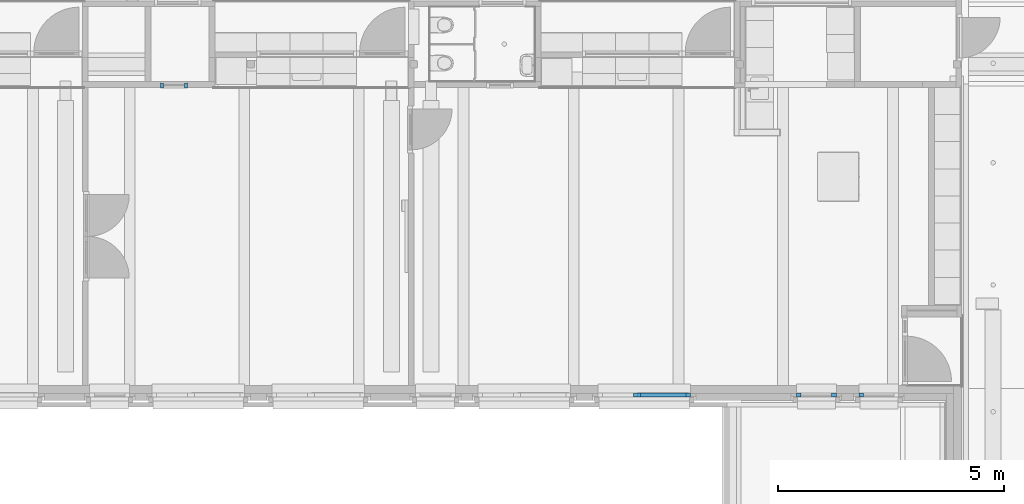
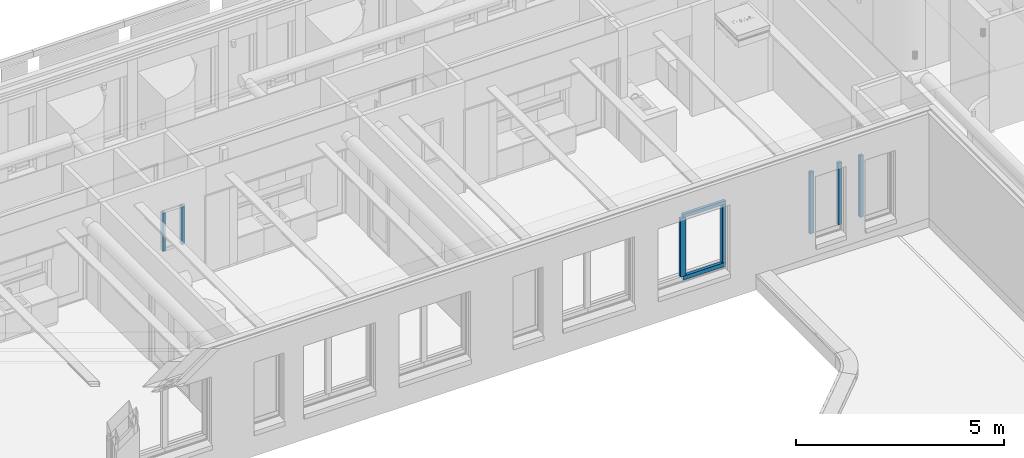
# One storey, part 16 of 128: 9 members, 4 elements without a shape of their own.
"""IFC2X3 building model written with IfcOpenShell, lengths in millimetres."""

from ifc_helpers import new_model, entity, si_unit, converted_unit, derived_unit, direction, frame, frame_2d, origin, origin_2d_with_axis, place, context, subcontext, project, spatial, rectangle, extrude, source, transform, mapped, material, type_object, type_shapes, element, aggregate, save


model = new_model("IFC2X3")

# Units and contexts
model_context = context("Model", 3, precision=0.01, world=origin(), true_north=direction((6.123031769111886e-17, 1.0)))
body_context = subcontext(model_context, "Body", "Model", "MODEL_VIEW")
ifc_project = project(units=[si_unit("LENGTHUNIT", "METRE", prefix="MILLI"), si_unit("AREAUNIT", "SQUARE_METRE"), si_unit("VOLUMEUNIT", "CUBIC_METRE"), converted_unit("PLANEANGLEUNIT", "DEGREE", entity("IfcRatioMeasure", 0.017453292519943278), si_unit("PLANEANGLEUNIT", "RADIAN"), dimensions=[0, 0, 0, 0, 0, 0, 0]), si_unit("MASSUNIT", "GRAM", prefix="KILO"), derived_unit("MASSDENSITYUNIT", [(si_unit("MASSUNIT", "GRAM", prefix="KILO"), 1), (si_unit("LENGTHUNIT", "METRE"), -3)]), derived_unit("IONCONCENTRATIONUNIT", [(si_unit("MASSUNIT", "GRAM", prefix="KILO"), 1), (si_unit("LENGTHUNIT", "METRE"), -3)]), derived_unit("MOMENTOFINERTIAUNIT", [(si_unit("LENGTHUNIT", "METRE"), 4)]), si_unit("TIMEUNIT", "SECOND"), si_unit("FREQUENCYUNIT", "HERTZ"), si_unit("THERMODYNAMICTEMPERATUREUNIT", "DEGREE_CELSIUS"), derived_unit("THERMALTRANSMITTANCEUNIT", [(si_unit("MASSUNIT", "GRAM", prefix="KILO"), 1), (si_unit("THERMODYNAMICTEMPERATUREUNIT", "KELVIN"), -1), (si_unit("TIMEUNIT", "SECOND"), -3)]), derived_unit("THERMALCONDUCTANCEUNIT", [(si_unit("MASSUNIT", "GRAM", prefix="KILO"), 1), (si_unit("THERMODYNAMICTEMPERATUREUNIT", "KELVIN"), -1), (si_unit("TIMEUNIT", "SECOND"), -3), (si_unit("LENGTHUNIT", "METRE"), 1)]), derived_unit("VOLUMETRICFLOWRATEUNIT", [(si_unit("LENGTHUNIT", "METRE"), 3), (si_unit("TIMEUNIT", "SECOND"), -1)]), derived_unit("MASSFLOWRATEUNIT", [(si_unit("MASSUNIT", "GRAM", prefix="KILO"), 1), (si_unit("TIMEUNIT", "SECOND"), -1)]), derived_unit("ROTATIONALFREQUENCYUNIT", [(si_unit("TIMEUNIT", "SECOND"), -1)]), si_unit("ELECTRICCURRENTUNIT", "AMPERE"), si_unit("ELECTRICVOLTAGEUNIT", "VOLT"), si_unit("POWERUNIT", "WATT"), si_unit("FORCEUNIT", "NEWTON", prefix="KILO"), si_unit("ILLUMINANCEUNIT", "LUX"), si_unit("LUMINOUSFLUXUNIT", "LUMEN"), si_unit("LUMINOUSINTENSITYUNIT", "CANDELA"), derived_unit("USERDEFINED", [(si_unit("MASSUNIT", "GRAM", prefix="KILO"), -1), (si_unit("LENGTHUNIT", "METRE"), -2), (si_unit("TIMEUNIT", "SECOND"), 3), (si_unit("LUMINOUSFLUXUNIT", "LUMEN"), 1)]), derived_unit("USERDEFINED", [(si_unit("MASSUNIT", "GRAM", prefix="KILO"), 1), (si_unit("TIMEUNIT", "SECOND"), -3), (si_unit("LENGTHUNIT", "METRE"), 3), (si_unit("ELECTRICCURRENTUNIT", "AMPERE"), -2)]), derived_unit("SOUNDPOWERUNIT", [(si_unit("MASSUNIT", "GRAM", prefix="KILO"), 1), (si_unit("TIMEUNIT", "SECOND"), -3), (si_unit("LENGTHUNIT", "METRE"), 2)]), derived_unit("SOUNDPRESSUREUNIT", [(si_unit("MASSUNIT", "GRAM", prefix="KILO"), 1), (si_unit("LENGTHUNIT", "METRE"), -1), (si_unit("TIMEUNIT", "SECOND"), -2)]), derived_unit("LINEARVELOCITYUNIT", [(si_unit("LENGTHUNIT", "METRE"), 1), (si_unit("TIMEUNIT", "SECOND"), -1)]), si_unit("PRESSUREUNIT", "PASCAL"), derived_unit("USERDEFINED", [(si_unit("MASSUNIT", "GRAM", prefix="KILO"), 1), (si_unit("LENGTHUNIT", "METRE"), -2), (si_unit("TIMEUNIT", "SECOND"), -2)]), derived_unit("LINEARFORCEUNIT", [(si_unit("MASSUNIT", "GRAM", prefix="KILO"), 1), (si_unit("TIMEUNIT", "SECOND"), -2)]), derived_unit("PLANARFORCEUNIT", [(si_unit("MASSUNIT", "GRAM", prefix="KILO"), 1), (si_unit("LENGTHUNIT", "METRE"), -1), (si_unit("TIMEUNIT", "SECOND"), -2)]), derived_unit("SPECIFICHEATCAPACITYUNIT", [(si_unit("THERMODYNAMICTEMPERATUREUNIT", "KELVIN"), -1), (si_unit("LENGTHUNIT", "METRE"), 2), (si_unit("TIMEUNIT", "SECOND"), -2)]), derived_unit("HEATINGVALUEUNIT", [(si_unit("LENGTHUNIT", "METRE"), 2), (si_unit("TIMEUNIT", "SECOND"), -2)]), derived_unit("VAPORPERMEABILITYUNIT", [(si_unit("LENGTHUNIT", "METRE"), -1), (si_unit("TIMEUNIT", "SECOND"), 1)]), derived_unit("DYNAMICVISCOSITYUNIT", [(si_unit("MASSUNIT", "GRAM", prefix="KILO"), 1), (si_unit("TIMEUNIT", "SECOND"), -1), (si_unit("LENGTHUNIT", "METRE"), -1)]), derived_unit("THERMALEXPANSIONCOEFFICIENTUNIT", [(si_unit("THERMODYNAMICTEMPERATUREUNIT", "KELVIN"), -1)]), derived_unit("MODULUSOFELASTICITYUNIT", [(si_unit("MASSUNIT", "GRAM", prefix="KILO"), 1), (si_unit("LENGTHUNIT", "METRE"), -1), (si_unit("TIMEUNIT", "SECOND"), -2)]), derived_unit("ISOTHERMALMOISTURECAPACITYUNIT", [(si_unit("LENGTHUNIT", "METRE"), 3), (si_unit("MASSUNIT", "GRAM", prefix="KILO"), -1)]), derived_unit("MOISTUREDIFFUSIVITYUNIT", [(si_unit("TIMEUNIT", "SECOND"), -1), (si_unit("LENGTHUNIT", "METRE"), 2)])], contexts=[model_context])

# Site, building, storey
site_placement = place(None, frame((0.0, 300.0, 0.0)))
site = spatial("IfcSite", under=ifc_project, at=site_placement, Name="<Kadastrale nummers>", CompositionType="ELEMENT")
building_placement = place(site_placement, origin())
building = spatial("IfcBuilding", under=site, at=building_placement, CompositionType="ELEMENT")
storey_placement = place(building_placement, frame((0.0, 0.0, 3560.0000331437)))
storey = spatial("IfcBuildingStorey", under=building, at=storey_placement, Name="01 eerste verdieping", CompositionType="ELEMENT", Elevation=3560.0000331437)

# Curtain wall, members
curtain_wall_type_1 = type_object("IfcCurtainWallType", Name="Curtain Wall:Merk H05", PredefinedType="NOTDEFINED")
curtain_wall_1_placement = place(storey_placement, frame((0.0, 0.0, -3560.0000331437)))
curtain_wall_1 = element("IfcCurtainWall", 1, at=curtain_wall_1_placement, inside=storey, type_object=curtain_wall_type_1, Name="Curtain Wall:Merk H05", ObjectType="Curtain Wall:Merk H05")
ifc_material_1 = material(Name="ISR_HPL")
member_type_1 = type_object("IfcMemberType", Name="Rectangular Mullion:31_CWM_067x114", PredefinedType="MULLION", material=ifc_material_1)
shared_shape_1 = source(origin(), body_context, "Body", "SweptSolid", [
    extrude(rectangle(XDim=113.9999999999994, YDim=67.0, at=frame_2d((1.0658141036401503e-14, 0.0), x_axis=(1.0, 0.0))), frame((-33.5, -57.0, -1123.0), z_axis=(0.0, 0.0, 1.0), x_axis=(0.0, -1.0, 0.0)), (0.0, 0.0, 1.0), 1123.0000000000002),
])
type_shapes(member_type_1, [shared_shape_1])
member_1_placement = place(curtain_wall_1_placement, frame((19005.0, 44889.0, 4850.0000331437), z_axis=(0.0, 0.0, -1.0), x_axis=(-1.0, 0.0, 0.0)))
member_1 = element("IfcMember", 2, at=member_1_placement, type_object=member_type_1, material=ifc_material_1, Name="Rectangular Mullion:31_CWM_067x114", ObjectType="Rectangular Mullion:31_CWM_067x114", context=body_context, shape_type="MappedRepresentation", body=[
    mapped(shared_shape_1, transform((0.0, 0.0, 0.0), scale=1.0)),
])
member_type_2 = type_object("IfcMemberType", Name="Rectangular Mullion:31_CWM_067x114", PredefinedType="MULLION", material=ifc_material_1)
shared_shape_2 = source(origin(), body_context, "Body", "SweptSolid", [
    extrude(rectangle(XDim=113.9999999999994, YDim=67.0, at=frame_2d((1.0658141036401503e-14, 0.0), x_axis=(1.0, 0.0))), frame((-33.5, -57.0, -1123.0), z_axis=(0.0, 0.0, 1.0), x_axis=(0.0, -1.0, 0.0)), (0.0, 0.0, 1.0), 1123.0000000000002),
])
type_shapes(member_type_2, [shared_shape_2])
member_2_placement = place(curtain_wall_1_placement, frame((19605.0, 44889.0, 5973.0000331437)))
member_2 = element("IfcMember", 3, at=member_2_placement, type_object=member_type_2, material=ifc_material_1, Name="Rectangular Mullion:31_CWM_067x114", ObjectType="Rectangular Mullion:31_CWM_067x114", context=body_context, shape_type="MappedRepresentation", body=[
    mapped(shared_shape_2, transform((0.0, 0.0, 0.0), scale=1.0)),
])
aggregate(curtain_wall_1, [member_1, member_2])

curtain_wall_type_2 = type_object("IfcCurtainWallType", Name="Curtain Wall:K_28", PredefinedType="NOTDEFINED")
curtain_wall_2_placement = place(storey_placement, frame((0.0, 0.0, -3560.0000331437)))
curtain_wall_2 = element("IfcCurtainWall", 4, at=curtain_wall_2_placement, inside=storey, type_object=curtain_wall_type_2, Name="Curtain Wall:K_28", ObjectType="Curtain Wall:K_28")
ifc_material_2 = material(Name="ISR_Kunststof_RAL7006")
member_type_3 = type_object("IfcMemberType", Name="Rectangular Mullion:100x83 Gealan Kubus", PredefinedType="MULLION", material=ifc_material_2)
shared_shape_3 = source(origin(), body_context, "Body", "SweptSolid", [
    extrude(rectangle(XDim=83.0, YDim=100.0, at=origin_2d_with_axis()), frame((-50.0, 41.5, -1810.0), z_axis=(0.0, 0.0, 1.0), x_axis=(0.0, -1.0, 0.0)), (0.0, 0.0, 1.0), 1810.0),
])
type_shapes(member_type_3, [shared_shape_3])
member_3_placement = place(curtain_wall_2_placement, frame((33934.0, 38032.0, 4580.000035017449), z_axis=(0.0, 0.0, -1.0), x_axis=(1.0, 0.0, 0.0)))
member_3 = element("IfcMember", 5, at=member_3_placement, type_object=member_type_3, material=ifc_material_2, Name="Rectangular Mullion:100x83 Gealan Kubus", ObjectType="Rectangular Mullion:100x83 Gealan Kubus", context=body_context, shape_type="MappedRepresentation", body=[
    mapped(shared_shape_3, transform((0.0, 0.0, 0.0), scale=1.0)),
])
member_type_4 = type_object("IfcMemberType", Name="Rectangular Mullion:100x83 Gealan Kubus", PredefinedType="MULLION", material=ifc_material_2)
shared_shape_4 = source(origin(), body_context, "Body", "SweptSolid", [
    extrude(rectangle(XDim=83.0, YDim=100.0, at=origin_2d_with_axis()), frame((-50.0, 41.5, -1810.0), z_axis=(0.0, 0.0, 1.0), x_axis=(0.0, -1.0, 0.0)), (0.0, 0.0, 1.0), 1810.0),
])
type_shapes(member_type_4, [shared_shape_4])
member_4_placement = place(curtain_wall_2_placement, frame((33054.0, 38032.0, 6390.00003501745), z_axis=(0.0, 0.0, 1.0), x_axis=(-1.0, 0.0, 0.0)))
member_4 = element("IfcMember", 6, at=member_4_placement, type_object=member_type_4, material=ifc_material_2, Name="Rectangular Mullion:100x83 Gealan Kubus", ObjectType="Rectangular Mullion:100x83 Gealan Kubus", context=body_context, shape_type="MappedRepresentation", body=[
    mapped(shared_shape_4, transform((0.0, 0.0, 0.0), scale=1.0)),
])
aggregate(curtain_wall_2, [member_3, member_4])

# Curtain wall, member
curtain_wall_3_placement = place(storey_placement, frame((0.0, 0.0, -3560.0000331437)))
curtain_wall_3 = element("IfcCurtainWall", 7, at=curtain_wall_3_placement, inside=storey, type_object=curtain_wall_type_2, Name="Curtain Wall:K_28", ObjectType="Curtain Wall:K_28")
member_5_placement = place(curtain_wall_3_placement, frame((34434.0, 38032.0, 6390.00003501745), z_axis=(0.0, 0.0, 1.0), x_axis=(-1.0, 0.0, 0.0)))
member_5 = element("IfcMember", 8, at=member_5_placement, type_object=member_type_4, material=ifc_material_2, Name="Rectangular Mullion:100x83 Gealan Kubus", ObjectType="Rectangular Mullion:100x83 Gealan Kubus", context=body_context, shape_type="MappedRepresentation", body=[
    mapped(shared_shape_4, transform((0.0, 0.0, 0.0), scale=1.0)),
])
aggregate(curtain_wall_3, [member_5])

# Curtain wall, members
curtain_wall_type_3 = type_object("IfcCurtainWallType", Name="Curtain Wall:K_24", PredefinedType="NOTDEFINED")
curtain_wall_4_placement = place(storey_placement, frame((0.0, 0.0, -3560.0000331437)))
curtain_wall_4 = element("IfcCurtainWall", 9, at=curtain_wall_4_placement, inside=storey, type_object=curtain_wall_type_3, Name="Curtain Wall:K_24", ObjectType="Curtain Wall:K_24")
member_type_5 = type_object("IfcMemberType", Name="Rectangular Mullion:100x83 Gealan Kubus", PredefinedType="MULLION", material=ifc_material_2)
shared_shape_5 = source(origin(), body_context, "Body", "SweptSolid", [
    extrude(rectangle(XDim=82.99999999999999, YDim=100.0, at=origin_2d_with_axis()), frame((-50.0, 41.49999999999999, -1709.9999649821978), z_axis=(0.0, 0.0, 1.0), x_axis=(0.0, -1.0, 0.0)), (0.0, 0.0, 1.0), 1709.9999649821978),
])
type_shapes(member_type_5, [shared_shape_5])
member_6_placement = place(curtain_wall_4_placement, frame((30710.0, 38031.99862327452, 4580.000035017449), z_axis=(0.0, 0.0, -1.0), x_axis=(1.0, 0.0, 0.0)))
member_6 = element("IfcMember", 10, at=member_6_placement, type_object=member_type_5, material=ifc_material_2, Name="Rectangular Mullion:100x83 Gealan Kubus", ObjectType="Rectangular Mullion:100x83 Gealan Kubus", context=body_context, shape_type="MappedRepresentation", body=[
    mapped(shared_shape_5, transform((0.0, 0.0, 0.0), scale=1.0)),
])
member_type_6 = type_object("IfcMemberType", Name="Rectangular Mullion:154x83 Gealan Kubus", PredefinedType="MULLION", material=ifc_material_2)
shared_shape_6 = source(origin(), body_context, "Body", "SweptSolid", [
    extrude(rectangle(XDim=83.00000000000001, YDim=154.0, at=origin_2d_with_axis()), frame((0.0, 41.50000000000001, -1710.0), z_axis=(0.0, 0.0, 1.0), x_axis=(0.0, -1.0, 0.0)), (0.0, 0.0, 1.0), 1710.0000000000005),
])
type_shapes(member_type_6, [shared_shape_6])
member_7_placement = place(curtain_wall_4_placement, frame((29527.0, 38031.99862327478, 4580.000035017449), z_axis=(0.0, 0.0, -1.0), x_axis=(1.0, 0.0, 0.0)))
member_7 = element("IfcMember", 11, at=member_7_placement, type_object=member_type_6, material=ifc_material_2, Name="Rectangular Mullion:154x83 Gealan Kubus", ObjectType="Rectangular Mullion:154x83 Gealan Kubus", context=body_context, shape_type="MappedRepresentation", body=[
    mapped(shared_shape_6, transform((0.0, 0.0, 0.0), scale=1.0)),
])
member_type_7 = type_object("IfcMemberType", Name="Rectangular Mullion:100x83 Gealan Kubus", PredefinedType="MULLION", material=ifc_material_2)
shared_shape_7 = source(origin(), body_context, "Body", "SweptSolid", [
    extrude(rectangle(XDim=83.0, YDim=100.0, at=origin_2d_with_axis()), frame((-50.0, 41.5, -1183.0), z_axis=(0.0, 0.0, 1.0), x_axis=(0.0, -1.0, 0.0)), (0.0, 0.0, 1.0), 1183.0000000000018),
])
type_shapes(member_type_7, [shared_shape_7])
member_8_placement = place(curtain_wall_4_placement, frame((30710.0, 38031.99862327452, 6390.000035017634), z_axis=(1.0, 0.0, 0.0), x_axis=(0.0, 0.0, 1.0)))
member_8 = element("IfcMember", 12, at=member_8_placement, type_object=member_type_7, material=ifc_material_2, Name="Rectangular Mullion:100x83 Gealan Kubus", ObjectType="Rectangular Mullion:100x83 Gealan Kubus", context=body_context, shape_type="MappedRepresentation", body=[
    mapped(shared_shape_7, transform((0.0, 0.0, 0.0), scale=1.0)),
])
member_type_8 = type_object("IfcMemberType", Name="Rectangular Mullion:120x83 Gealan Kubus", PredefinedType="MULLION", material=ifc_material_2)
shared_shape_8 = source(origin(), body_context, "Body", "SweptSolid", [
    extrude(rectangle(XDim=83.00000000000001, YDim=120.0, at=origin_2d_with_axis()), frame((-60.0, 41.50000000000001, -1183.0), z_axis=(0.0, 0.0, 1.0), x_axis=(0.0, -1.0, 0.0)), (0.0, 0.0, 1.0), 1183.0000000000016),
])
type_shapes(member_type_8, [shared_shape_8])
member_9_placement = place(curtain_wall_4_placement, frame((29527.0, 38031.99862327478, 4460.000035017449), z_axis=(-1.0, 0.0, 0.0), x_axis=(0.0, 0.0, -1.0)))
member_9 = element("IfcMember", 13, at=member_9_placement, type_object=member_type_8, material=ifc_material_2, Name="Rectangular Mullion:120x83 Gealan Kubus", ObjectType="Rectangular Mullion:120x83 Gealan Kubus", context=body_context, shape_type="MappedRepresentation", body=[
    mapped(shared_shape_8, transform((0.0, 0.0, 0.0), scale=1.0)),
])
aggregate(curtain_wall_4, [member_8, member_6, member_9, member_7])

save(model, "model.ifc")
